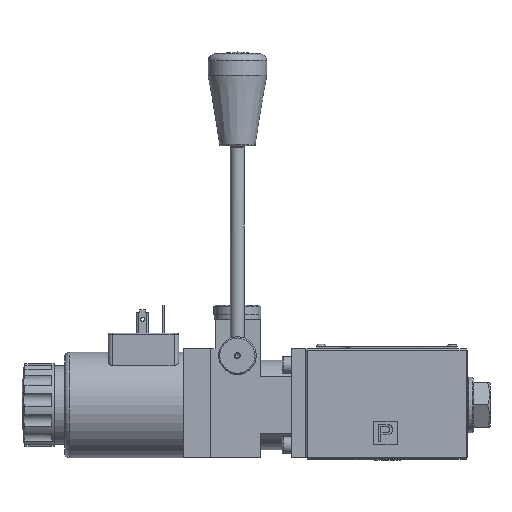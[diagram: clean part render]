
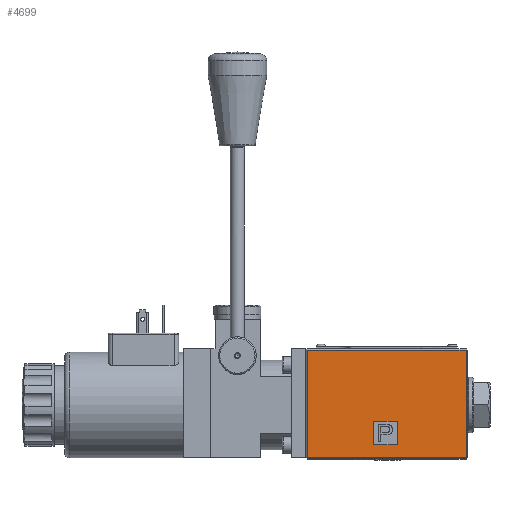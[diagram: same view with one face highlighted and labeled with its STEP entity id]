
A CAD part, top view. The second image highlights one B-rep face of the part: STEP entity #4699.
In plain terms, the highlighted planar face has unit normal (0, 0, 1).
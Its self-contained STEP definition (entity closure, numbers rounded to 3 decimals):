
#2146=FACE_BOUND('',#8050,.T.);
#2147=FACE_BOUND('',#8051,.T.);
#4699=ADVANCED_FACE('',(#2146,#2147),#5759,.T.);
#5759=PLANE('',#24691);
#8050=EDGE_LOOP('',(#12761,#12762,#12763,#12764));
#8051=EDGE_LOOP('',(#12765,#12766,#12767,#12768));
#12761=ORIENTED_EDGE('',*,*,#18653,.T.);
#12762=ORIENTED_EDGE('',*,*,#18654,.T.);
#12763=ORIENTED_EDGE('',*,*,#18655,.T.);
#12764=ORIENTED_EDGE('',*,*,#18656,.T.);
#12765=ORIENTED_EDGE('',*,*,#18657,.T.);
#12766=ORIENTED_EDGE('',*,*,#18658,.T.);
#12767=ORIENTED_EDGE('',*,*,#18659,.T.);
#12768=ORIENTED_EDGE('',*,*,#18660,.T.);
#15966=VERTEX_POINT('',#58224);
#15967=VERTEX_POINT('',#58225);
#15968=VERTEX_POINT('',#58227);
#15969=VERTEX_POINT('',#58229);
#15970=VERTEX_POINT('',#58232);
#15971=VERTEX_POINT('',#58233);
#15972=VERTEX_POINT('',#58235);
#15973=VERTEX_POINT('',#58237);
#18653=EDGE_CURVE('',#15966,#15967,#21122,.T.);
#18654=EDGE_CURVE('',#15967,#15968,#21123,.T.);
#18655=EDGE_CURVE('',#15968,#15969,#21124,.T.);
#18656=EDGE_CURVE('',#15969,#15966,#21125,.T.);
#18657=EDGE_CURVE('',#15970,#15971,#21126,.T.);
#18658=EDGE_CURVE('',#15971,#15972,#21127,.T.);
#18659=EDGE_CURVE('',#15972,#15973,#21128,.T.);
#18660=EDGE_CURVE('',#15973,#15970,#21129,.T.);
#21122=LINE('',#58223,#23131);
#21123=LINE('',#58226,#23132);
#21124=LINE('',#58228,#23133);
#21125=LINE('',#58230,#23134);
#21126=LINE('',#58231,#23135);
#21127=LINE('',#58234,#23136);
#21128=LINE('',#58236,#23137);
#21129=LINE('',#58238,#23138);
#23131=VECTOR('',#29285,1.);
#23132=VECTOR('',#29286,1.);
#23133=VECTOR('',#29287,1.);
#23134=VECTOR('',#29288,1.);
#23135=VECTOR('',#29289,1.);
#23136=VECTOR('',#29290,1.);
#23137=VECTOR('',#29291,1.);
#23138=VECTOR('',#29292,1.);
#24691=AXIS2_PLACEMENT_3D('',#58239,#29293,#29294);
#29285=DIRECTION('',(0.,-1.,0.));
#29286=DIRECTION('',(1.,0.,0.));
#29287=DIRECTION('',(0.,1.,0.));
#29288=DIRECTION('',(-1.,0.,0.));
#29289=DIRECTION('',(0.,1.,0.));
#29290=DIRECTION('',(1.,0.,0.));
#29291=DIRECTION('',(0.,-1.,0.));
#29292=DIRECTION('',(-1.,0.,0.));
#29293=DIRECTION('',(0.,0.,1.));
#29294=DIRECTION('',(-1.,0.,0.));
#58223=CARTESIAN_POINT('',(106.926,172.261,22.));
#58224=CARTESIAN_POINT('',(106.926,195.061,22.));
#58225=CARTESIAN_POINT('',(106.926,149.461,22.));
#58226=CARTESIAN_POINT('',(140.726,149.461,22.));
#58227=CARTESIAN_POINT('',(174.526,149.461,22.));
#58228=CARTESIAN_POINT('',(174.526,195.761,22.));
#58229=CARTESIAN_POINT('',(174.526,195.061,22.));
#58230=CARTESIAN_POINT('',(106.226,195.061,22.));
#58231=CARTESIAN_POINT('',(135.226,154.765,22.));
#58232=CARTESIAN_POINT('',(135.226,154.765,22.));
#58233=CARTESIAN_POINT('',(135.226,164.765,22.));
#58234=CARTESIAN_POINT('',(135.226,164.765,22.));
#58235=CARTESIAN_POINT('',(145.226,164.765,22.));
#58236=CARTESIAN_POINT('',(145.226,164.765,22.));
#58237=CARTESIAN_POINT('',(145.226,154.765,22.));
#58238=CARTESIAN_POINT('',(145.226,154.765,22.));
#58239=CARTESIAN_POINT('',(140.726,172.261,22.));
